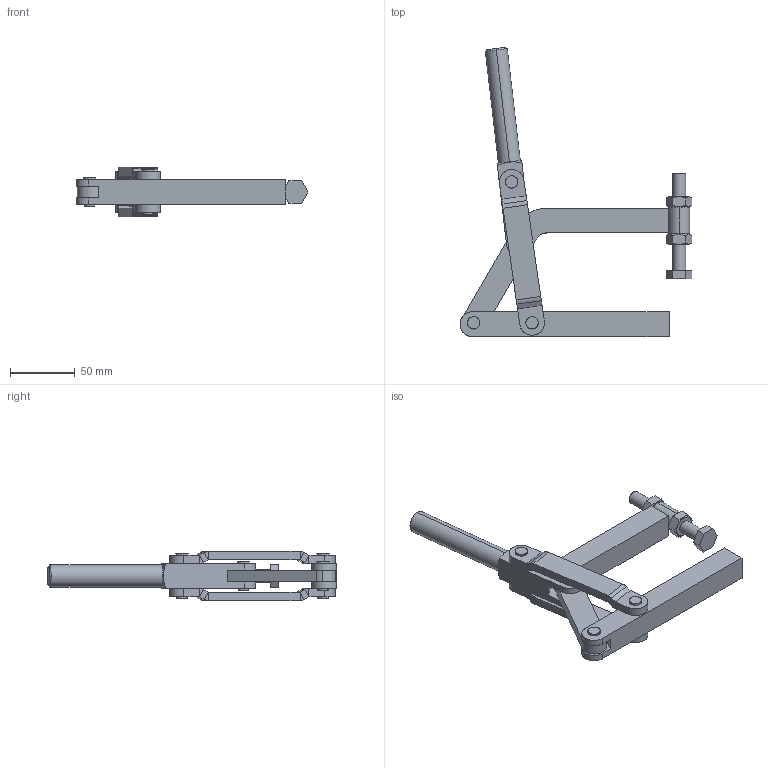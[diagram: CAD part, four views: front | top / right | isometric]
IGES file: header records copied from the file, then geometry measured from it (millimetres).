
Start section: SolidWorks IGES file using analytic representation for surfaces
Global section: file name: C:\Projetos\Grampos\KF-MP\KF-06 MP\KF-06 MP.IGS; native system: SolidWorks 2011; preprocessor: SolidWorks 2011; author: Usuario; date: 110517.130534; units: millimetre
Bounding box: 178.64 x 222.66 x 37.75 mm (x, y, z)
Surface area: 63893.1 mm2 (no closed solid volume)
Topology: 0 solids, 0 shells, 246 faces, 3586 edges, 3578 vertices
Faces by surface type: revolution 124, bspline 122
